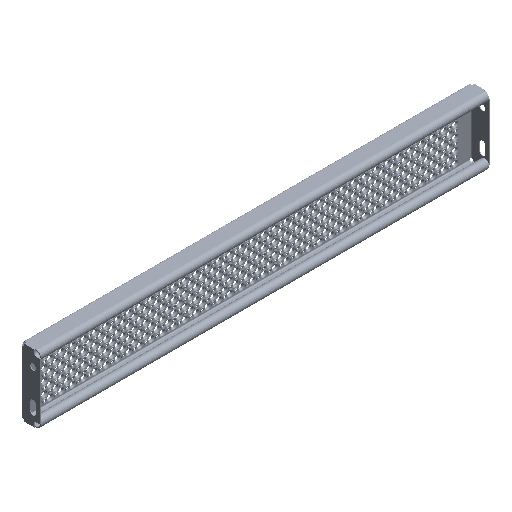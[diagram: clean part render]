
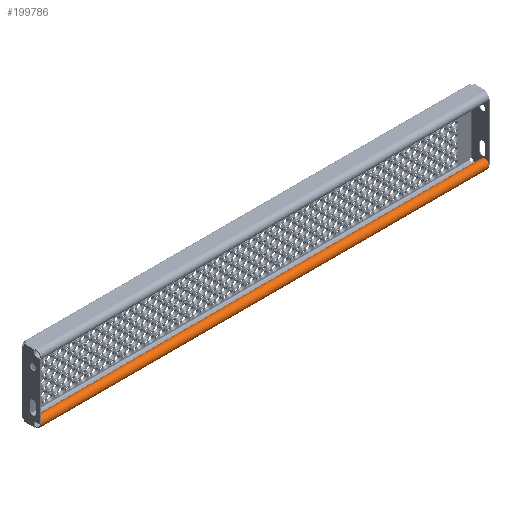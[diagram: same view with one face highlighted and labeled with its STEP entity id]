
A CAD part, isometric view. The second image highlights one B-rep face of the part: STEP entity #199786.
In plain terms, the highlighted cylindrical face has radius 10 mm (diameter 20 mm), a partial arc.
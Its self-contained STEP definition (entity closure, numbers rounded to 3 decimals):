
#5173 = ORIENTED_EDGE ( 'NONE', *, *, #194563, .F. ) ;
#10970 = VERTEX_POINT ( 'NONE', #215609 ) ;
#12077 = DIRECTION ( 'NONE',  ( 1., 0., 0. ) ) ;
#13715 = VERTEX_POINT ( 'NONE', #236202 ) ;
#13999 = CIRCLE ( 'NONE', #206068, 10. ) ;
#26290 = CARTESIAN_POINT ( 'NONE',  ( 497.99, -31.998, -65. ) ) ;
#32208 = LINE ( 'NONE', #113954, #43467 ) ;
#43467 = VECTOR ( 'NONE', #12077, 1000. ) ;
#44428 = CARTESIAN_POINT ( 'NONE',  ( 497.99, -31.998, -75. ) ) ;
#45653 = EDGE_CURVE ( 'NONE', #10970, #148004, #32208, .T. ) ;
#46371 = FACE_OUTER_BOUND ( 'NONE', #175421, .T. ) ;
#58031 = CARTESIAN_POINT ( 'NONE',  ( 497.99, -24.337, -71.428 ) ) ;
#84655 = DIRECTION ( 'NONE',  ( -1., 0., 0. ) ) ;
#86217 = DIRECTION ( 'NONE',  ( 0., 0., -1. ) ) ;
#86781 = DIRECTION ( 'NONE',  ( -1., 0., 0. ) ) ;
#89284 = DIRECTION ( 'NONE',  ( 0., 0.766, -0.643 ) ) ;
#89416 = CARTESIAN_POINT ( 'NONE',  ( 497.99, -31.998, -75. ) ) ;
#108045 = DIRECTION ( 'NONE',  ( 1., 0., 0. ) ) ;
#113954 = CARTESIAN_POINT ( 'NONE',  ( 497.99, -24.337, -71.428 ) ) ;
#128168 = CYLINDRICAL_SURFACE ( 'NONE', #143931, 10. ) ;
#129425 = EDGE_CURVE ( 'NONE', #13715, #10970, #13999, .T. ) ;
#130122 = DIRECTION ( 'NONE',  ( 0., 0., -1. ) ) ;
#143931 = AXIS2_PLACEMENT_3D ( 'NONE', #26290, #108045, #89284 ) ;
#148004 = VERTEX_POINT ( 'NONE', #58031 ) ;
#150331 = VECTOR ( 'NONE', #86781, 1000. ) ;
#175421 = EDGE_LOOP ( 'NONE', ( #5173, #196389, #215617, #189104 ) ) ;
#188574 = LINE ( 'NONE', #89416, #150331 ) ;
#189104 = ORIENTED_EDGE ( 'NONE', *, *, #129425, .F. ) ;
#190137 = VERTEX_POINT ( 'NONE', #44428 ) ;
#191738 = CARTESIAN_POINT ( 'NONE',  ( -497.99, -31.998, -65. ) ) ;
#194563 = EDGE_CURVE ( 'NONE', #190137, #13715, #188574, .T. ) ;
#196389 = ORIENTED_EDGE ( 'NONE', *, *, #244483, .F. ) ;
#199786 = ADVANCED_FACE ( 'NONE', ( #46371 ), #128168, .T. ) ;
#206068 = AXIS2_PLACEMENT_3D ( 'NONE', #191738, #84655, #130122 ) ;
#206819 = DIRECTION ( 'NONE',  ( 1., 0., 0. ) ) ;
#215609 = CARTESIAN_POINT ( 'NONE',  ( -497.99, -24.337, -71.428 ) ) ;
#215617 = ORIENTED_EDGE ( 'NONE', *, *, #45653, .F. ) ;
#225897 = AXIS2_PLACEMENT_3D ( 'NONE', #252279, #206819, #86217 ) ;
#236202 = CARTESIAN_POINT ( 'NONE',  ( -497.99, -31.998, -75. ) ) ;
#242933 = CIRCLE ( 'NONE', #225897, 10. ) ;
#244483 = EDGE_CURVE ( 'NONE', #148004, #190137, #242933, .T. ) ;
#252279 = CARTESIAN_POINT ( 'NONE',  ( 497.99, -31.998, -65. ) ) ;
